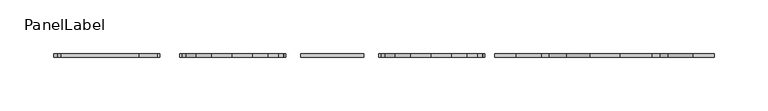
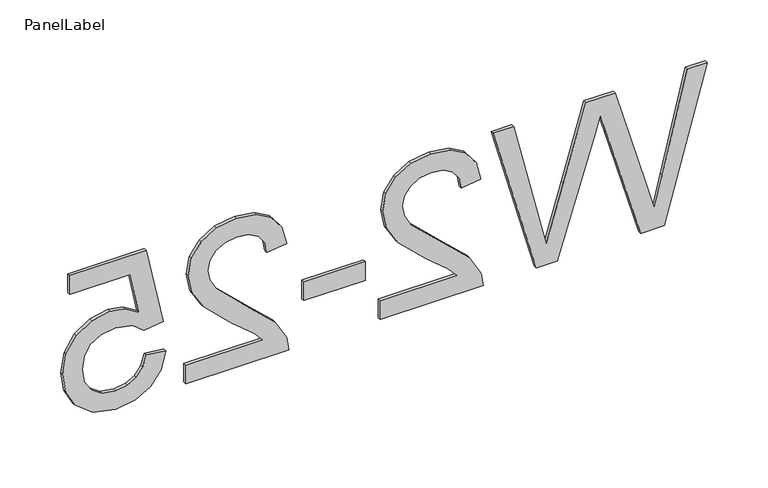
"""IFC4 building model written with IfcOpenShell, lengths in millimetres: fastener geometry, PanelLabel : Miranda."""

from ifc_helpers import new_model, si_unit, frame, origin, place, context, project, spatial, polyline, outline, extrude, source, transform, mapped, element, save


def panellabel_a3b1b412(model_context):
    return source(origin(), model_context, "Body", "SweptSolid", [
        extrude(outline(polyline([(1310.9113766, 268.5683654), (1460.9667612, 309.4892308), (1460.9667612, 290.1461538), (1362.3463766, 266.4069231), (1331.9030112, 259.08), (1358.8294535, 251.2401923), (1460.9667612, 221.4928846), (1460.9667612, 193.6139423), (1386.9282035, 171.9995192), (1331.9030112, 155.9169231), (1361.4671458, 148.8098077), (1460.9667612, 124.8507692), (1460.9667612, 105.5076923), (1310.9113766, 146.4651923), (1310.9113766, 166.5043269), (1426.6767612, 202.4795192), (1442.8326266, 207.4984615), (1423.3796458, 213.1401923), (1310.9113766, 245.9281731), (1310.9113766, 268.5683654)])), frame((0.0, 100.80625, 0.0), z_axis=(0.0, 1.0, 0.0), x_axis=(0.0, 0.0, 1.0)), (0.0, 0.0, 1.0), 3.175),
        extrude(outline(polyline([(1329.6682997, -2.3446154), (1310.9113766, -2.3446154), (1310.9113766, 96.1292308), (1323.8433958, 94.1143269), (1343.7543093, 82.7209615), (1365.4969535, 59.2381731), (1396.7462804, 26.8531731), (1407.5168573, 20.7809856), (1417.9943573, 18.7569231), (1427.3865569, 20.6665024), (1435.1943093, 26.3952404), (1440.4559559, 35.2012861), (1442.2098381, 46.3427885), (1440.4971698, 58.0429688), (1435.359165, 67.1329327), (1427.1988045, 72.9990505), (1416.4190689, 75.0276923), (1418.7636843, 93.7846154), (1436.9069775, 89.2373438), (1450.1595497, 79.4055288), (1458.2649583, 64.8020553), (1460.9667612, 45.9398077), (1457.9627227, 26.9401803), (1448.9506073, 12.3641827), (1435.4873862, 3.0910457), (1419.1300304, 0.0), (1401.3439247, 3.33375), (1382.9533477, 14.4157212), (1357.254165, 41.2872115), (1339.211617, 62.865), (1329.6682997, 71.3275962), (1329.6682997, -2.3446154)])), frame((0.0, 100.80625, 0.0), z_axis=(0.0, 1.0, 0.0), x_axis=(0.0, 0.0, 1.0)), (0.0, 0.0, 1.0), 3.175),
        extrude(outline(polyline([(-75.0276923, 103.98125), (-16.4123077, 103.98125), (-16.4123077, 100.80625), (-75.0276923, 100.80625), (-75.0276923, 103.98125)])), frame((0.0, 0.0, 1355.4590689), z_axis=(0.0, 0.0, 1.0), x_axis=(1.0, 0.0, 0.0)), (0.0, 0.0, 1.0), 18.7569231),
        extrude(outline(polyline([(1329.6682997, -187.5692308), (1310.9113766, -187.5692308), (1310.9113766, -89.0953846), (1323.8433958, -91.1102885), (1343.7543093, -102.5036538), (1365.4969535, -125.9864423), (1396.7462804, -158.3714423), (1407.5168573, -164.4436298), (1417.9943573, -166.4676923), (1427.3865569, -164.558113), (1435.1943093, -158.829375), (1440.4559559, -150.0233293), (1442.2098381, -138.8818269), (1440.4971698, -127.1816466), (1435.359165, -118.0916827), (1427.1988045, -112.2255649), (1416.4190689, -110.1969231), (1418.7636843, -91.44), (1436.9069775, -95.9872716), (1450.1595497, -105.8190865), (1458.2649583, -120.4225601), (1460.9667612, -139.2848077), (1457.9627227, -158.2844351), (1448.9506073, -172.8604327), (1435.4873862, -182.1335697), (1419.1300304, -185.2246154), (1401.3439247, -181.8908654), (1382.9533477, -170.8088942), (1357.254165, -143.9374038), (1339.211617, -122.3596154), (1329.6682997, -113.8970192), (1329.6682997, -187.5692308)])), frame((0.0, 100.80625, 0.0), z_axis=(0.0, 1.0, 0.0), x_axis=(0.0, 0.0, 1.0)), (0.0, 0.0, 1.0), 3.175),
        extrude(outline(polyline([(1350.7698381, -206.3261538), (1353.1144535, -225.0830769), (1341.8538886, -228.5267308), (1333.7896939, -234.5348077), (1328.9401867, -243.0798317), (1327.3236843, -254.1343269), (1329.5721338, -267.5792308), (1336.3174823, -277.65375), (1346.7812444, -283.9457452), (1360.1849343, -286.0430769), (1372.8055593, -284.0785457), (1382.4587804, -278.1849519), (1388.5859198, -268.3165024), (1390.6282997, -254.4274038), (1387.3678189, -237.9601442), (1378.9052227, -227.4276923), (1381.2498381, -208.6707692), (1458.6221458, -225.0830769), (1458.6221458, -297.7661538), (1439.8652227, -297.7661538), (1439.8652227, -240.2498077), (1398.5413766, -232.2268269), (1406.6742612, -245.6259375), (1409.3852227, -259.6661538), (1406.0239968, -277.191238), (1395.9403189, -291.7397596), (1380.5720977, -301.5349399), (1361.357242, -304.8), (1342.6003189, -301.8600721), (1326.5543573, -293.0402885), (1313.0636602, -276.1517308), (1308.5667612, -254.0610577), (1311.4563165, -235.6384255), (1320.1249823, -220.9616827), (1333.5653069, -210.9009014), (1350.7698381, -206.3261538)])), frame((0.0, 100.80625, 0.0), z_axis=(0.0, 1.0, 0.0), x_axis=(0.0, 0.0, 1.0)), (0.0, 0.0, 1.0), 3.175),
    ])


if __name__ == "__main__":
    model = new_model("IFC4")
    model_context = context("Model", 3, world=origin())
    ifc_project = project(units=[si_unit("LENGTHUNIT", "METRE", prefix="MILLI")], contexts=[model_context])
    site = spatial("IfcSite", under=ifc_project)
    building = spatial("IfcBuilding", under=site)
    placement = place(None, origin())
    panellabel_shape = panellabel_a3b1b412(model_context)
    element("IfcFastener", 1, ObjectType="PanelLabel : Miranda", at=placement, inside=building, context=model_context, shape_type="MappedRepresentation", body=[
        mapped(panellabel_shape, transform((0.0, 0.0, 0.0), x_axis=(1.0, 0.0, 0.0), y_axis=(0.0, 1.0, 0.0), z_axis=(0.0, 0.0, 1.0))),
    ])
    save(model, "model.ifc")
